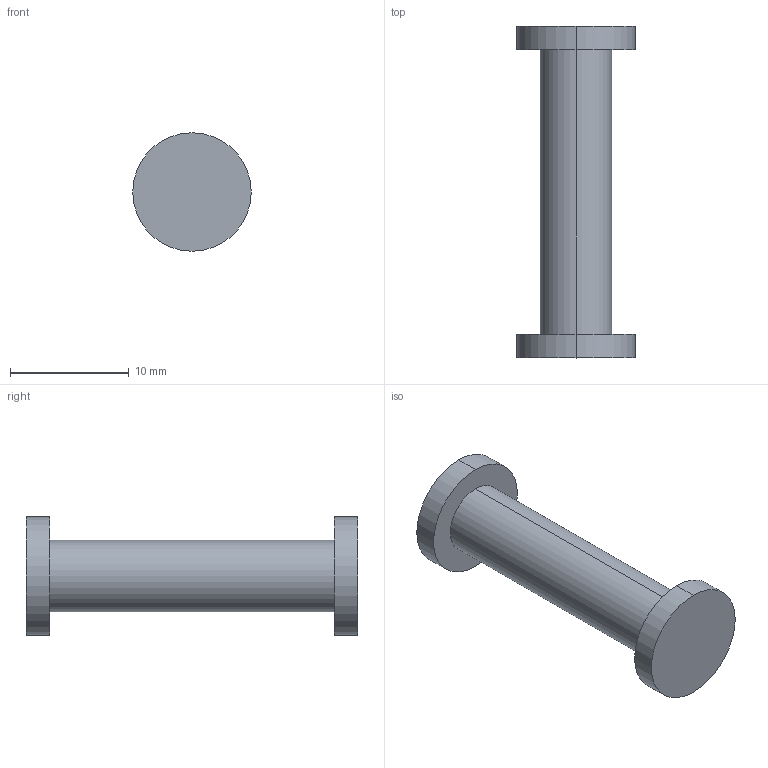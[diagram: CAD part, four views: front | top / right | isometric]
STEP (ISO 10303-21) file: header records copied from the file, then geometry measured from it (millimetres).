
FILE_DESCRIPTION (( 'STEP AP214' ), '1' );
FILE_NAME ('pin.STEP', '2026-04-30T16:24:08', ( '' ), ( '' ), 'SwSTEP 2.0', 'SolidWorks 2022', '' );
FILE_SCHEMA (( 'AUTOMOTIVE_DESIGN' ));
Length unit declared in the file: millimetre
Products named in the file (1): pin
Bounding box: 10 x 28 x 10 mm (x, y, z)
Volume: 992.7 mm3; surface area: 835.7 mm2
Topology: 1 solids, 1 shells, 10 faces, 18 edges, 12 vertices
Faces by surface type: cylinder 6, plane 4
Entity records: 288 total; most frequent: DIRECTION 52, CARTESIAN_POINT 41, ORIENTED_EDGE 36, AXIS2_PLACEMENT_3D 23, EDGE_CURVE 18, EDGE_LOOP 12, VERTEX_POINT 12, CIRCLE 12
